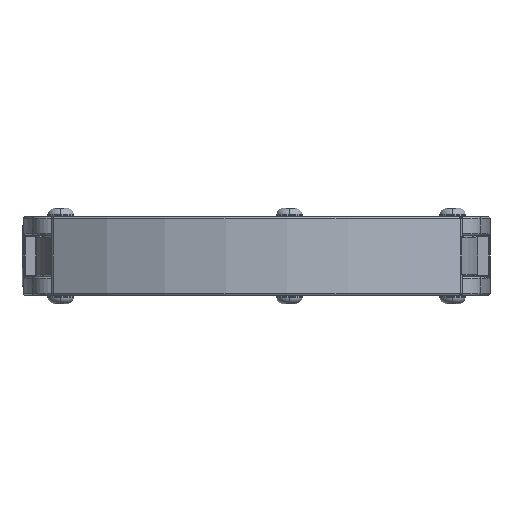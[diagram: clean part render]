
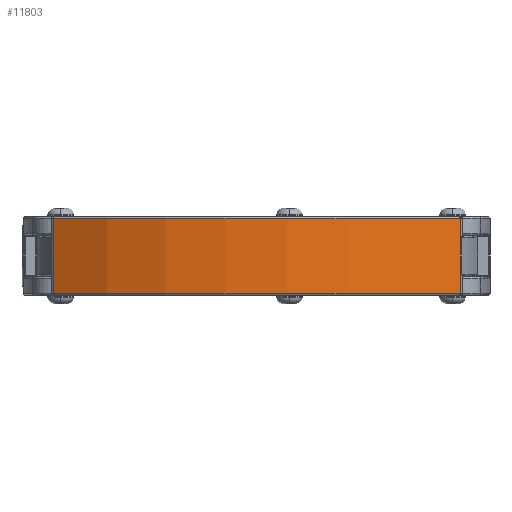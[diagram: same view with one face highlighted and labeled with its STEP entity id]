
A CAD part, left-side view. The second image highlights one B-rep face of the part: STEP entity #11803.
In plain terms, the highlighted cylindrical face has radius 88.523 mm (diameter 177.047 mm), a partial arc.
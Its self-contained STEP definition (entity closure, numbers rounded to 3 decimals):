
#387 = EDGE_CURVE ( 'NONE', #17654, #18138, #8100, .T. ) ;
#727 = CARTESIAN_POINT ( 'NONE',  ( -37.5, -48.548, -8.9 ) ) ;
#1478 = VECTOR ( 'NONE', #12854, 1000. ) ;
#1699 = CIRCLE ( 'NONE', #14146, 88.523 ) ;
#1765 = CIRCLE ( 'NONE', #17365, 88.523 ) ;
#1773 = VERTEX_POINT ( 'NONE', #12346 ) ;
#2103 = CARTESIAN_POINT ( 'NONE',  ( -37.5, 48.548, -9.4 ) ) ;
#2584 = EDGE_CURVE ( 'NONE', #17654, #18384, #1699, .T. ) ;
#2636 = DIRECTION ( 'NONE',  ( 0., 0., 1. ) ) ;
#3288 = LINE ( 'NONE', #14460, #1478 ) ;
#3558 = FACE_OUTER_BOUND ( 'NONE', #17905, .T. ) ;
#4684 = VECTOR ( 'NONE', #6252, 1000. ) ;
#6252 = DIRECTION ( 'NONE',  ( 0., 0., 1. ) ) ;
#6925 = DIRECTION ( 'NONE',  ( 1., 0., 0. ) ) ;
#7842 = CYLINDRICAL_SURFACE ( 'NONE', #15656, 88.523 ) ;
#8100 = LINE ( 'NONE', #2103, #4684 ) ;
#8753 = DIRECTION ( 'NONE',  ( 1., 0., 0. ) ) ;
#9595 = DIRECTION ( 'NONE',  ( 0., 0., -1. ) ) ;
#9951 = ORIENTED_EDGE ( 'NONE', *, *, #14488, .T. ) ;
#10958 = CARTESIAN_POINT ( 'NONE',  ( 36.523, 0., 8.9 ) ) ;
#11472 = EDGE_CURVE ( 'NONE', #1773, #18138, #1765, .T. ) ;
#11803 = ADVANCED_FACE ( 'NONE', ( #3558 ), #7842, .T. ) ;
#12346 = CARTESIAN_POINT ( 'NONE',  ( -37.5, -48.548, 8.9 ) ) ;
#12466 = DIRECTION ( 'NONE',  ( 1., 0., 0. ) ) ;
#12603 = ORIENTED_EDGE ( 'NONE', *, *, #387, .F. ) ;
#12854 = DIRECTION ( 'NONE',  ( 0., 0., 1. ) ) ;
#14146 = AXIS2_PLACEMENT_3D ( 'NONE', #17495, #17302, #8753 ) ;
#14177 = ORIENTED_EDGE ( 'NONE', *, *, #2584, .T. ) ;
#14241 = CARTESIAN_POINT ( 'NONE',  ( 36.523, 0., -9.4 ) ) ;
#14460 = CARTESIAN_POINT ( 'NONE',  ( -37.5, -48.548, -9.4 ) ) ;
#14488 = EDGE_CURVE ( 'NONE', #18384, #1773, #3288, .T. ) ;
#15656 = AXIS2_PLACEMENT_3D ( 'NONE', #14241, #2636, #6925 ) ;
#17094 = ORIENTED_EDGE ( 'NONE', *, *, #11472, .T. ) ;
#17160 = CARTESIAN_POINT ( 'NONE',  ( -37.5, 48.548, -8.9 ) ) ;
#17266 = CARTESIAN_POINT ( 'NONE',  ( -37.5, 48.548, 8.9 ) ) ;
#17302 = DIRECTION ( 'NONE',  ( 0., 0., 1. ) ) ;
#17365 = AXIS2_PLACEMENT_3D ( 'NONE', #10958, #9595, #12466 ) ;
#17495 = CARTESIAN_POINT ( 'NONE',  ( 36.523, 0., -8.9 ) ) ;
#17654 = VERTEX_POINT ( 'NONE', #17160 ) ;
#17905 = EDGE_LOOP ( 'NONE', ( #9951, #17094, #12603, #14177 ) ) ;
#18138 = VERTEX_POINT ( 'NONE', #17266 ) ;
#18384 = VERTEX_POINT ( 'NONE', #727 ) ;
